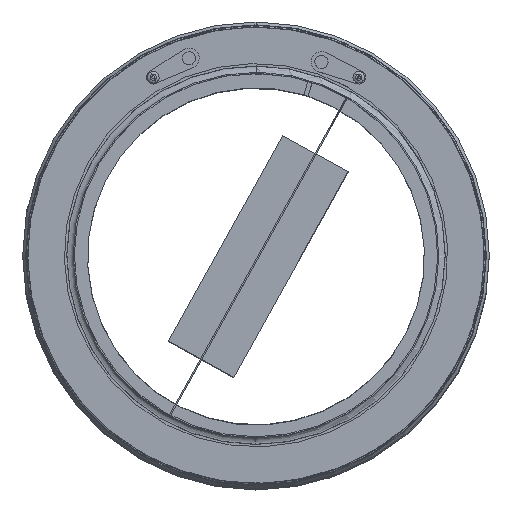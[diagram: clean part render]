
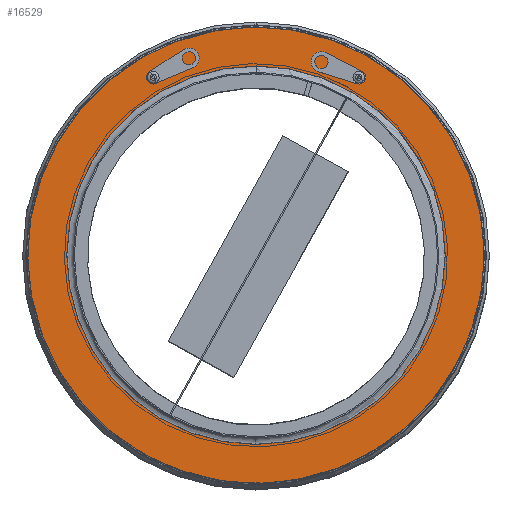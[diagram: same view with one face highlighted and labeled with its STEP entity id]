
A CAD part, top view. The second image highlights one B-rep face of the part: STEP entity #16529.
In plain terms, the highlighted planar face has unit normal (0, 0, 1).
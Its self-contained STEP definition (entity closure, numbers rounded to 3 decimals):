
#93 = DIRECTION ( 'NONE',  ( 0., 0., 1. ) ) ;
#117 = FACE_BOUND ( 'NONE', #14097, .T. ) ;
#572 = EDGE_CURVE ( 'NONE', #6675, #15209, #6729, .T. ) ;
#639 = DIRECTION ( 'NONE',  ( 0.002, 1., 0. ) ) ;
#733 = CARTESIAN_POINT ( 'NONE',  ( 0., 0., 300. ) ) ;
#805 = CARTESIAN_POINT ( 'NONE',  ( -0.377, -155.6, 300. ) ) ;
#979 = CARTESIAN_POINT ( 'NONE',  ( -69.701, 123.513, 300. ) ) ;
#1330 = CARTESIAN_POINT ( 'NONE',  ( 0.312, 128.77, 300. ) ) ;
#1424 = CARTESIAN_POINT ( 'NONE',  ( -69.706, 121.413, 300. ) ) ;
#1425 = DIRECTION ( 'NONE',  ( -0.002, -1., 0. ) ) ;
#1516 = FACE_BOUND ( 'NONE', #15687, .T. ) ;
#2146 = CARTESIAN_POINT ( 'NONE',  ( -69.706, 121.413, 300. ) ) ;
#2240 = CIRCLE ( 'NONE', #5620, 128.771 ) ;
#2296 = CIRCLE ( 'NONE', #5105, 2.1 ) ;
#2640 = EDGE_CURVE ( 'NONE', #14788, #3822, #2240, .T. ) ;
#2733 = DIRECTION ( 'NONE',  ( -0.002, -1., 0. ) ) ;
#2868 = ORIENTED_EDGE ( 'NONE', *, *, #14343, .F. ) ;
#3720 = DIRECTION ( 'NONE',  ( 0., 0., -1. ) ) ;
#3822 = VERTEX_POINT ( 'NONE', #16714 ) ;
#3904 = VERTEX_POINT ( 'NONE', #805 ) ;
#4019 = VERTEX_POINT ( 'NONE', #979 ) ;
#4085 = CARTESIAN_POINT ( 'NONE',  ( 70.299, 123.174, 300. ) ) ;
#4141 = CARTESIAN_POINT ( 'NONE',  ( 0., 0., 300. ) ) ;
#4167 = CIRCLE ( 'NONE', #9503, 2.1 ) ;
#4601 = ORIENTED_EDGE ( 'NONE', *, *, #15028, .F. ) ;
#4874 = ORIENTED_EDGE ( 'NONE', *, *, #7233, .F. ) ;
#5022 = DIRECTION ( 'NONE',  ( -0.002, -1., 0. ) ) ;
#5105 = AXIS2_PLACEMENT_3D ( 'NONE', #14251, #93, #5350 ) ;
#5333 = ORIENTED_EDGE ( 'NONE', *, *, #2640, .T. ) ;
#5350 = DIRECTION ( 'NONE',  ( 0.002, 1., 0. ) ) ;
#5415 = AXIS2_PLACEMENT_3D ( 'NONE', #1330, #6807, #1425 ) ;
#5620 = AXIS2_PLACEMENT_3D ( 'NONE', #733, #3720, #5022 ) ;
#5677 = CIRCLE ( 'NONE', #12676, 128.771 ) ;
#5947 = CIRCLE ( 'NONE', #14349, 155.6 ) ;
#6377 = DIRECTION ( 'NONE',  ( 0., 0., -1. ) ) ;
#6505 = ORIENTED_EDGE ( 'NONE', *, *, #11575, .F. ) ;
#6675 = VERTEX_POINT ( 'NONE', #4085 ) ;
#6722 = VERTEX_POINT ( 'NONE', #7584 ) ;
#6729 = CIRCLE ( 'NONE', #16538, 2.1 ) ;
#6807 = DIRECTION ( 'NONE',  ( 0., 0., -1. ) ) ;
#6891 = DIRECTION ( 'NONE',  ( 0., 0., 1. ) ) ;
#7039 = CARTESIAN_POINT ( 'NONE',  ( 70.289, 118.974, 300. ) ) ;
#7233 = EDGE_CURVE ( 'NONE', #4019, #6722, #4167, .T. ) ;
#7244 = DIRECTION ( 'NONE',  ( 0., 0., 1. ) ) ;
#7584 = CARTESIAN_POINT ( 'NONE',  ( -69.711, 119.313, 300. ) ) ;
#7972 = DIRECTION ( 'NONE',  ( -0.002, -1., 0. ) ) ;
#8288 = PLANE ( 'NONE',  #5415 ) ;
#9317 = VERTEX_POINT ( 'NONE', #11340 ) ;
#9503 = AXIS2_PLACEMENT_3D ( 'NONE', #2146, #9912, #15338 ) ;
#9912 = DIRECTION ( 'NONE',  ( 0., 0., 1. ) ) ;
#10397 = EDGE_LOOP ( 'NONE', ( #4874, #6505 ) ) ;
#10603 = CARTESIAN_POINT ( 'NONE',  ( 0., 0., 300. ) ) ;
#11340 = CARTESIAN_POINT ( 'NONE',  ( 0.377, 155.6, 300. ) ) ;
#11575 = EDGE_CURVE ( 'NONE', #6722, #4019, #15471, .T. ) ;
#12054 = FACE_OUTER_BOUND ( 'NONE', #13325, .T. ) ;
#12419 = ORIENTED_EDGE ( 'NONE', *, *, #14758, .T. ) ;
#12676 = AXIS2_PLACEMENT_3D ( 'NONE', #13031, #6377, #17090 ) ;
#12754 = CARTESIAN_POINT ( 'NONE',  ( 70.294, 121.074, 300. ) ) ;
#12941 = EDGE_CURVE ( 'NONE', #3904, #9317, #16351, .T. ) ;
#13031 = CARTESIAN_POINT ( 'NONE',  ( 0., 0., 300. ) ) ;
#13325 = EDGE_LOOP ( 'NONE', ( #15036, #2868 ) ) ;
#13331 = ORIENTED_EDGE ( 'NONE', *, *, #572, .F. ) ;
#13368 = DIRECTION ( 'NONE',  ( 0.002, 1., 0. ) ) ;
#13460 = FACE_BOUND ( 'NONE', #10397, .T. ) ;
#14097 = EDGE_LOOP ( 'NONE', ( #13331, #4601 ) ) ;
#14251 = CARTESIAN_POINT ( 'NONE',  ( 70.294, 121.074, 300. ) ) ;
#14343 = EDGE_CURVE ( 'NONE', #9317, #3904, #5947, .T. ) ;
#14349 = AXIS2_PLACEMENT_3D ( 'NONE', #10603, #14642, #7972 ) ;
#14642 = DIRECTION ( 'NONE',  ( 0., 0., -1. ) ) ;
#14758 = EDGE_CURVE ( 'NONE', #3822, #14788, #5677, .T. ) ;
#14788 = VERTEX_POINT ( 'NONE', #16388 ) ;
#14854 = DIRECTION ( 'NONE',  ( 0., 0., -1. ) ) ;
#15028 = EDGE_CURVE ( 'NONE', #15209, #6675, #2296, .T. ) ;
#15036 = ORIENTED_EDGE ( 'NONE', *, *, #12941, .F. ) ;
#15209 = VERTEX_POINT ( 'NONE', #7039 ) ;
#15338 = DIRECTION ( 'NONE',  ( 0.002, 1., 0. ) ) ;
#15471 = CIRCLE ( 'NONE', #16019, 2.1 ) ;
#15687 = EDGE_LOOP ( 'NONE', ( #12419, #5333 ) ) ;
#16019 = AXIS2_PLACEMENT_3D ( 'NONE', #1424, #6891, #13368 ) ;
#16351 = CIRCLE ( 'NONE', #16907, 155.6 ) ;
#16388 = CARTESIAN_POINT ( 'NONE',  ( 0.312, 128.77, 300. ) ) ;
#16529 = ADVANCED_FACE ( 'NONE', ( #117, #13460, #12054, #1516 ), #8288, .F. ) ;
#16538 = AXIS2_PLACEMENT_3D ( 'NONE', #12754, #7244, #639 ) ;
#16714 = CARTESIAN_POINT ( 'NONE',  ( -0.312, -128.77, 300. ) ) ;
#16907 = AXIS2_PLACEMENT_3D ( 'NONE', #4141, #14854, #2733 ) ;
#17090 = DIRECTION ( 'NONE',  ( -0.002, -1., 0. ) ) ;
